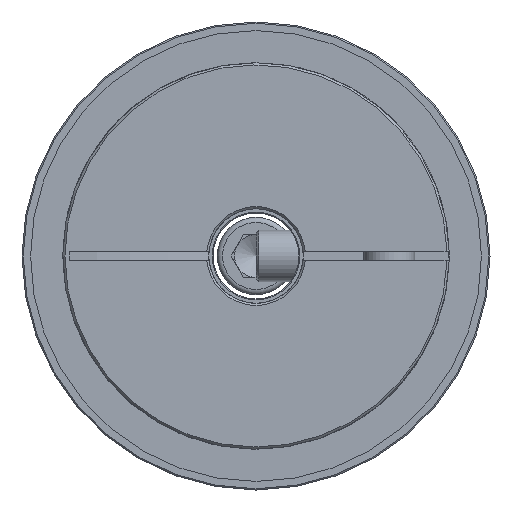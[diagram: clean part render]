
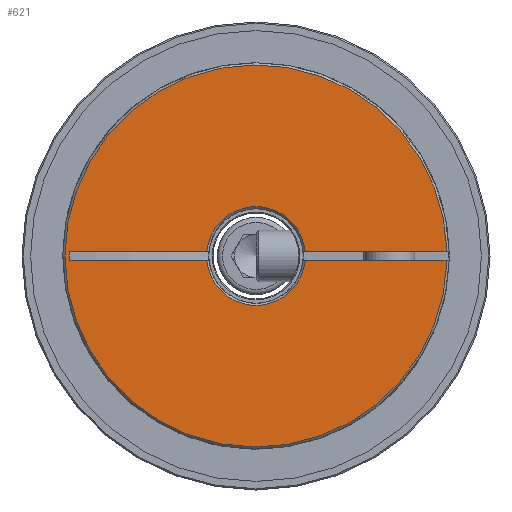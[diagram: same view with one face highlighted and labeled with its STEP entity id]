
A CAD part, left-side view. The second image highlights one B-rep face of the part: STEP entity #621.
In plain terms, the highlighted planar face has unit normal (-1, 0, 0).
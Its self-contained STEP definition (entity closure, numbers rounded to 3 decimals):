
#621 = ADVANCED_FACE( 'NONE', ( #1080 ), #1081, .F. );
#1080 = FACE_OUTER_BOUND( '', #1562, .T. );
#1081 = PLANE( '', #1563 );
#1562 = EDGE_LOOP( '', ( #2353, #2354, #2355, #2356, #2357, #2358, #2359, #2360 ) );
#1563 = AXIS2_PLACEMENT_3D( '', #2361, #2362, #2363 );
#2353 = ORIENTED_EDGE( '', *, *, #3003, .T. );
#2354 = ORIENTED_EDGE( '', *, *, #3004, .T. );
#2355 = ORIENTED_EDGE( '', *, *, #3005, .T. );
#2356 = ORIENTED_EDGE( '', *, *, #2974, .T. );
#2357 = ORIENTED_EDGE( '', *, *, #2999, .F. );
#2358 = ORIENTED_EDGE( '', *, *, #3006, .T. );
#2359 = ORIENTED_EDGE( '', *, *, #3007, .F. );
#2360 = ORIENTED_EDGE( '', *, *, #3008, .T. );
#2361 = CARTESIAN_POINT( '', ( 0., 11., 0. ) );
#2362 = DIRECTION( '', ( 1., 0., 0. ) );
#2363 = DIRECTION( '', ( 0., 1., 0. ) );
#2974 = EDGE_CURVE( 'NONE', #3385, #3386, #3387, .F. );
#2999 = EDGE_CURVE( 'NONE', #3431, #3386, #3433, .F. );
#3003 = EDGE_CURVE( 'NONE', #3439, #3440, #3441, .T. );
#3004 = EDGE_CURVE( 'NONE', #3440, #3442, #3443, .T. );
#3005 = EDGE_CURVE( 'NONE', #3442, #3385, #3444, .T. );
#3006 = EDGE_CURVE( 'NONE', #3431, #3445, #3446, .T. );
#3007 = EDGE_CURVE( 'NONE', #3447, #3445, #3448, .F. );
#3008 = EDGE_CURVE( 'NONE', #3447, #3439, #3449, .T. );
#3385 = VERTEX_POINT( 'NONE', #4389 );
#3386 = VERTEX_POINT( 'NONE', #4390 );
#3387 = CIRCLE( '', #4391, 44.5 );
#3431 = VERTEX_POINT( 'NONE', #4550 );
#3433 = LINE( '', #4555, #4556 );
#3439 = VERTEX_POINT( 'NONE', #4564 );
#3440 = VERTEX_POINT( 'NONE', #4565 );
#3441 = LINE( '', #4566, #4567 );
#3442 = VERTEX_POINT( 'NONE', #4568 );
#3443 = CIRCLE( '', #4569, 11.5 );
#3444 = LINE( '', #4570, #4571 );
#3445 = VERTEX_POINT( 'NONE', #4572 );
#3446 = CIRCLE( '', #4573, 11.5 );
#3447 = VERTEX_POINT( 'NONE', #4574 );
#3448 = LINE( '', #4575, #4576 );
#3449 = LINE( '', #4577, #4578 );
#4389 = CARTESIAN_POINT( '', ( 0., -44.489, 1. ) );
#4390 = CARTESIAN_POINT( '', ( 0., -44.489, -1. ) );
#4391 = AXIS2_PLACEMENT_3D( '', #5064, #5065, #5066 );
#4550 = CARTESIAN_POINT( '', ( 0., -11.456, -1. ) );
#4555 = CARTESIAN_POINT( '', ( 0., -9., -1. ) );
#4556 = VECTOR( '', #5110, 1000. );
#4564 = CARTESIAN_POINT( '', ( 0., 43.508, 1. ) );
#4565 = CARTESIAN_POINT( '', ( 0., 11.456, 1. ) );
#4566 = CARTESIAN_POINT( '', ( 0., 11., 1. ) );
#4567 = VECTOR( '', #5116, 1000. );
#4568 = CARTESIAN_POINT( '', ( 0., -11.456, 1. ) );
#4569 = AXIS2_PLACEMENT_3D( '', #5117, #5118, #5119 );
#4570 = CARTESIAN_POINT( '', ( 0., 11., 1. ) );
#4571 = VECTOR( '', #5120, 1000. );
#4572 = CARTESIAN_POINT( '', ( 0., 11.456, -1. ) );
#4573 = AXIS2_PLACEMENT_3D( '', #5121, #5122, #5123 );
#4574 = CARTESIAN_POINT( '', ( 0., 43.508, -1. ) );
#4575 = CARTESIAN_POINT( '', ( 0., -9., -1. ) );
#4576 = VECTOR( '', #5124, 1000. );
#4577 = CARTESIAN_POINT( '', ( 0., 43.508, -1. ) );
#4578 = VECTOR( '', #5125, 1000. );
#5064 = CARTESIAN_POINT( '', ( 0., 0., 0. ) );
#5065 = DIRECTION( '', ( 1., 0., 0. ) );
#5066 = DIRECTION( '', ( 0., 0., -1. ) );
#5110 = DIRECTION( '', ( 0., 1., 0. ) );
#5116 = DIRECTION( '', ( 0., -1., 0. ) );
#5117 = CARTESIAN_POINT( '', ( 0., 0., 0. ) );
#5118 = DIRECTION( '', ( 1., 0., 0. ) );
#5119 = DIRECTION( '', ( 0., 0., -1. ) );
#5120 = DIRECTION( '', ( 0., -1., 0. ) );
#5121 = CARTESIAN_POINT( '', ( 0., 0., 0. ) );
#5122 = DIRECTION( '', ( 1., 0., 0. ) );
#5123 = DIRECTION( '', ( 0., 0., -1. ) );
#5124 = DIRECTION( '', ( 0., 1., 0. ) );
#5125 = DIRECTION( '', ( 0., 0., 1. ) );
